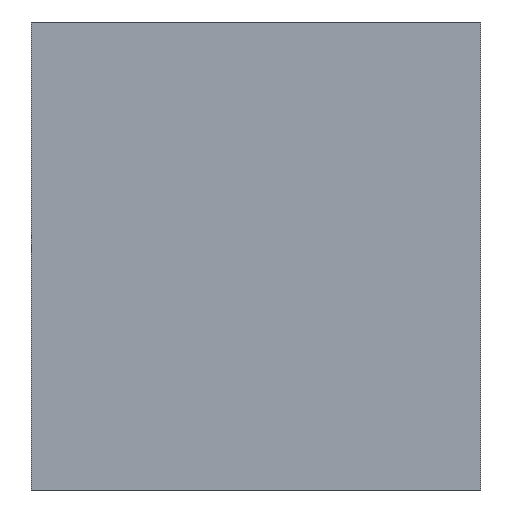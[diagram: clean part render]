
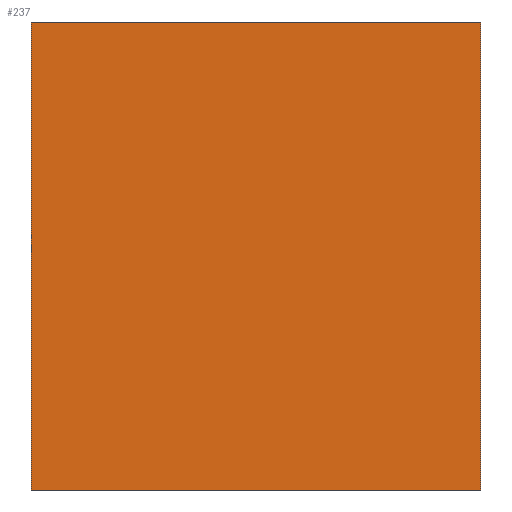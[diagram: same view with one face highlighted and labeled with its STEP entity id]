
A CAD part, front view. The second image highlights one B-rep face of the part: STEP entity #237.
In plain terms, the highlighted planar face has unit normal (0, -1, 0).
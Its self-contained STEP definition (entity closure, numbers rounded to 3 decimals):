
#21 = EDGE_CURVE('',#22,#24,#26,.T.);
#22 = VERTEX_POINT('',#23);
#23 = CARTESIAN_POINT('',(-241.,-73.,5.));
#24 = VERTEX_POINT('',#25);
#25 = CARTESIAN_POINT('',(-241.,-73.,30.));
#26 = SURFACE_CURVE('',#27,(#31,#43),.PCURVE_S1.);
#27 = LINE('',#28,#29);
#28 = CARTESIAN_POINT('',(-241.,-73.,5.));
#29 = VECTOR('',#30,1.);
#30 = DIRECTION('',(0.,0.,1.));
#31 = PCURVE('',#32,#37);
#32 = PLANE('',#33);
#33 = AXIS2_PLACEMENT_3D('',#34,#35,#36);
#34 = CARTESIAN_POINT('',(-241.,-73.,5.));
#35 = DIRECTION('',(1.,0.,-0.));
#36 = DIRECTION('',(0.,0.,1.));
#37 = DEFINITIONAL_REPRESENTATION('',(#38),#42);
#38 = LINE('',#39,#40);
#39 = CARTESIAN_POINT('',(0.,0.));
#40 = VECTOR('',#41,1.);
#41 = DIRECTION('',(1.,0.));
#42 = ( GEOMETRIC_REPRESENTATION_CONTEXT(2) 
PARAMETRIC_REPRESENTATION_CONTEXT() REPRESENTATION_CONTEXT('2D SPACE',''
  ) );
#43 = PCURVE('',#44,#49);
#44 = PLANE('',#45);
#45 = AXIS2_PLACEMENT_3D('',#46,#47,#48);
#46 = CARTESIAN_POINT('',(-241.,-73.,5.));
#47 = DIRECTION('',(-0.,1.,0.));
#48 = DIRECTION('',(0.,0.,1.));
#49 = DEFINITIONAL_REPRESENTATION('',(#50),#54);
#50 = LINE('',#51,#52);
#51 = CARTESIAN_POINT('',(0.,0.));
#52 = VECTOR('',#53,1.);
#53 = DIRECTION('',(1.,0.));
#54 = ( GEOMETRIC_REPRESENTATION_CONTEXT(2) 
PARAMETRIC_REPRESENTATION_CONTEXT() REPRESENTATION_CONTEXT('2D SPACE',''
  ) );
#72 = PLANE('',#73);
#73 = AXIS2_PLACEMENT_3D('',#74,#75,#76);
#74 = CARTESIAN_POINT('',(-241.,-73.,5.));
#75 = DIRECTION('',(0.,0.,1.));
#76 = DIRECTION('',(1.,0.,-0.));
#126 = PLANE('',#127);
#127 = AXIS2_PLACEMENT_3D('',#128,#129,#130);
#128 = CARTESIAN_POINT('',(-241.,-73.,30.));
#129 = DIRECTION('',(0.,0.,1.));
#130 = DIRECTION('',(1.,0.,-0.));
#141 = EDGE_CURVE('',#142,#144,#146,.T.);
#142 = VERTEX_POINT('',#143);
#143 = CARTESIAN_POINT('',(-217.,-73.,5.));
#144 = VERTEX_POINT('',#145);
#145 = CARTESIAN_POINT('',(-217.,-73.,30.));
#146 = SURFACE_CURVE('',#147,(#151,#163),.PCURVE_S1.);
#147 = LINE('',#148,#149);
#148 = CARTESIAN_POINT('',(-217.,-73.,5.));
#149 = VECTOR('',#150,1.);
#150 = DIRECTION('',(0.,0.,1.));
#151 = PCURVE('',#152,#157);
#152 = PLANE('',#153);
#153 = AXIS2_PLACEMENT_3D('',#154,#155,#156);
#154 = CARTESIAN_POINT('',(-217.,-73.,5.));
#155 = DIRECTION('',(1.,0.,-0.));
#156 = DIRECTION('',(0.,0.,1.));
#157 = DEFINITIONAL_REPRESENTATION('',(#158),#162);
#158 = LINE('',#159,#160);
#159 = CARTESIAN_POINT('',(0.,0.));
#160 = VECTOR('',#161,1.);
#161 = DIRECTION('',(1.,0.));
#162 = ( GEOMETRIC_REPRESENTATION_CONTEXT(2) 
PARAMETRIC_REPRESENTATION_CONTEXT() REPRESENTATION_CONTEXT('2D SPACE',''
  ) );
#163 = PCURVE('',#44,#164);
#164 = DEFINITIONAL_REPRESENTATION('',(#165),#169);
#165 = LINE('',#166,#167);
#166 = CARTESIAN_POINT('',(0.,24.));
#167 = VECTOR('',#168,1.);
#168 = DIRECTION('',(1.,0.));
#169 = ( GEOMETRIC_REPRESENTATION_CONTEXT(2) 
PARAMETRIC_REPRESENTATION_CONTEXT() REPRESENTATION_CONTEXT('2D SPACE',''
  ) );
#237 = ADVANCED_FACE('',(#238),#44,.F.);
#238 = FACE_BOUND('',#239,.F.);
#239 = EDGE_LOOP('',(#240,#261,#262,#283));
#240 = ORIENTED_EDGE('',*,*,#241,.F.);
#241 = EDGE_CURVE('',#22,#142,#242,.T.);
#242 = SURFACE_CURVE('',#243,(#247,#254),.PCURVE_S1.);
#243 = LINE('',#244,#245);
#244 = CARTESIAN_POINT('',(-241.,-73.,5.));
#245 = VECTOR('',#246,1.);
#246 = DIRECTION('',(1.,0.,-0.));
#247 = PCURVE('',#44,#248);
#248 = DEFINITIONAL_REPRESENTATION('',(#249),#253);
#249 = LINE('',#250,#251);
#250 = CARTESIAN_POINT('',(0.,0.));
#251 = VECTOR('',#252,1.);
#252 = DIRECTION('',(0.,1.));
#253 = ( GEOMETRIC_REPRESENTATION_CONTEXT(2) 
PARAMETRIC_REPRESENTATION_CONTEXT() REPRESENTATION_CONTEXT('2D SPACE',''
  ) );
#254 = PCURVE('',#72,#255);
#255 = DEFINITIONAL_REPRESENTATION('',(#256),#260);
#256 = LINE('',#257,#258);
#257 = CARTESIAN_POINT('',(0.,0.));
#258 = VECTOR('',#259,1.);
#259 = DIRECTION('',(1.,0.));
#260 = ( GEOMETRIC_REPRESENTATION_CONTEXT(2) 
PARAMETRIC_REPRESENTATION_CONTEXT() REPRESENTATION_CONTEXT('2D SPACE',''
  ) );
#261 = ORIENTED_EDGE('',*,*,#21,.T.);
#262 = ORIENTED_EDGE('',*,*,#263,.T.);
#263 = EDGE_CURVE('',#24,#144,#264,.T.);
#264 = SURFACE_CURVE('',#265,(#269,#276),.PCURVE_S1.);
#265 = LINE('',#266,#267);
#266 = CARTESIAN_POINT('',(-241.,-73.,30.));
#267 = VECTOR('',#268,1.);
#268 = DIRECTION('',(1.,0.,-0.));
#269 = PCURVE('',#44,#270);
#270 = DEFINITIONAL_REPRESENTATION('',(#271),#275);
#271 = LINE('',#272,#273);
#272 = CARTESIAN_POINT('',(25.,0.));
#273 = VECTOR('',#274,1.);
#274 = DIRECTION('',(0.,1.));
#275 = ( GEOMETRIC_REPRESENTATION_CONTEXT(2) 
PARAMETRIC_REPRESENTATION_CONTEXT() REPRESENTATION_CONTEXT('2D SPACE',''
  ) );
#276 = PCURVE('',#126,#277);
#277 = DEFINITIONAL_REPRESENTATION('',(#278),#282);
#278 = LINE('',#279,#280);
#279 = CARTESIAN_POINT('',(0.,0.));
#280 = VECTOR('',#281,1.);
#281 = DIRECTION('',(1.,0.));
#282 = ( GEOMETRIC_REPRESENTATION_CONTEXT(2) 
PARAMETRIC_REPRESENTATION_CONTEXT() REPRESENTATION_CONTEXT('2D SPACE',''
  ) );
#283 = ORIENTED_EDGE('',*,*,#141,.F.);
